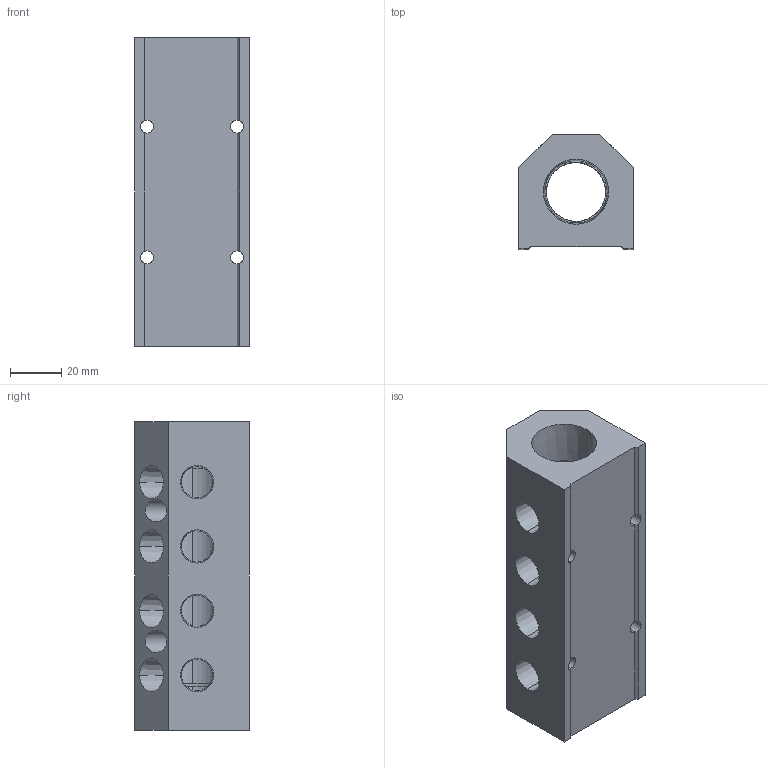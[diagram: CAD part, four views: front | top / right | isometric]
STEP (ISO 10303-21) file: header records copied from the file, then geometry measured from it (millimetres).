
FILE_DESCRIPTION (( 'STEP AP214' ), '1' );
FILE_NAME ('ALM4AB-N4N12-120R.step', '2022-02-06T14:06:00', ( '' ), ( '' ), 'SwSTEP 2.0', 'SolidWorks 2020', '' );
FILE_SCHEMA (( 'AUTOMOTIVE_DESIGN' ));
Length unit declared in the file: millimetre
Products named in the file (1): ALM4AB-N4N12-120R
Bounding box: 44.5 x 44.5 x 120 mm (x, y, z)
Volume: 146239.5 mm3; surface area: 34935 mm2
Topology: 1 solids, 1 shells, 314 faces, 854 edges, 566 vertices
Faces by surface type: plane 223, bspline 42, cone 25, cylinder 24
Entity records: 16261 total; most frequent: CARTESIAN_POINT 5847, ORIENTED_EDGE 1708, DIRECTION 1304, EDGE_CURVE 854, LINE 630, VECTOR 630, VERTEX_POINT 566, EDGE_LOOP 364
